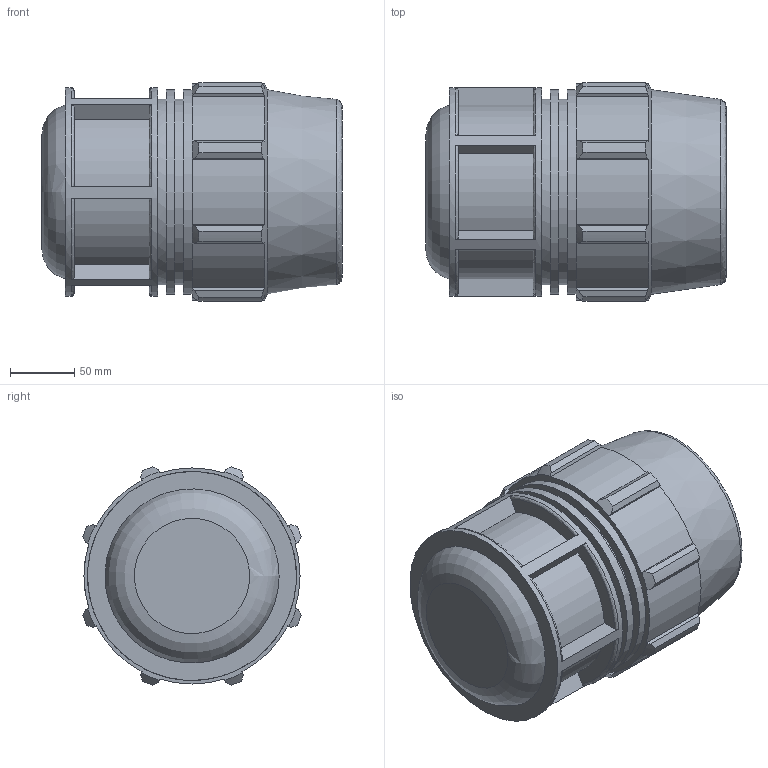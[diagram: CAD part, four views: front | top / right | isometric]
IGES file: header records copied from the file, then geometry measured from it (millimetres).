
Global section: file name: 871200110_181200110.ipt; native system: Autodesk Inventor 2015; preprocessor: unknown; author: Кирилл,,11,0; organization: 20170224.180708; date: 20170608.042536; units: millimetre
Bounding box: 234 x 170.31 x 170.31 mm (x, y, z)
Volume: 2148943 mm3; surface area: 262645.9 mm2
Topology: 1 solids, 1 shells, 121 faces, 322 edges, 216 vertices
Faces by surface type: plane 66, cylinder 27, revolution 18, cone 10
Full cylindrical faces by diameter (mm): 144.8 x2, 159.642 x2, 162.9 x1
